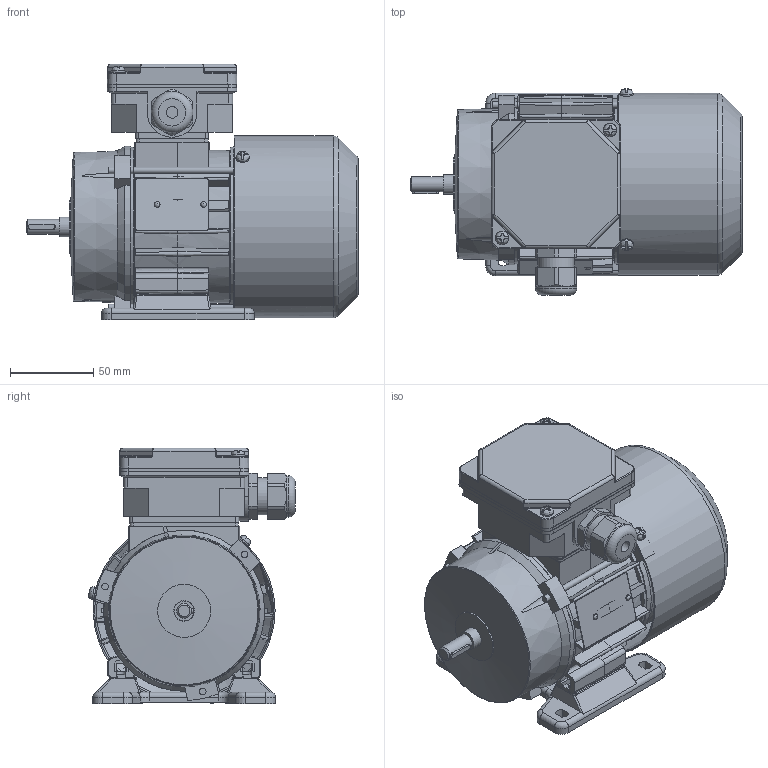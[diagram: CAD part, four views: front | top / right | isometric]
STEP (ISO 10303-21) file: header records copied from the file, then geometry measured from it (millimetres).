
FILE_DESCRIPTION( ( 'Unknown' ), '1' );
FILE_NAME( 'G:/Poczta Tk-1/STP/w.m.56/Sh56/Sh56-C.stp', 'Unknown', ( 'K. Szlosek' ), ( 'BESEL S.A.' ), 'PSStep 17.0.49', 'Unknown', ' ' );
FILE_SCHEMA( ( 'AUTOMOTIVE_DESIGN { 1 0 10303 214 1 1 1 1 }' ) );
Length unit declared in the file: millimetre
Products named in the file (29): Assem1; K4-2320 Uszczelka nr 1 Sh71,80; K3-2193 Tarcza łożyskowa P Sg56-2..; K2-0860 Pokrywka skrzynki zaciskowej; Wpust A3x3x16; K3-2977 Osłona przewietrznika Sg56; K4-2820 Uszczelka nr 2 Sh71,80; Wkręt samogwintujący M4x8; Wkręt samogwintujący M4x16; K2-0879 Przewietrznik Sg56; Nitokołek A 2x6; K3-2200 Tarcza łożyskowa N Sg56-...; K1-0484 Łapa Sg56-.. w. robocza; K3-9987 kadłub ze stojanem Sh56-C; K3-9990 wał Sh56-C; K2-0859 Podstawa skrzynki 6-cio zaciskowej; Dławnica M20x1,5; Łożysko 6201; Tabliczka znamionowa 32x44; Śruba ściągająca E_M4x85
Assembly tree (44 placements, depth 2):
  Assem1
    K4-2320 Uszczelka nr 1 Sh71,80
    K3-2193 Tarcza łożyskowa P Sg56-2..
    K2-0860 Pokrywka skrzynki zaciskowej
    Wpust A3x3x16
    K3-2977 Osłona przewietrznika Sg56
    K4-2820 Uszczelka nr 2 Sh71,80
    Wkręt samogwintujący M4x8  x3
    Wkręt samogwintujący M4x16  x2
    K2-0879 Przewietrznik Sg56
    Nitokołek A 2x6  x2
    K3-2200 Tarcza łożyskowa N Sg56-...
    K1-0484 Łapa Sg56-.. w. robocza
    K3-9987 kadłub ze stojanem Sh56-C
    K3-9990 wał Sh56-C
    K2-0859 Podstawa skrzynki 6-cio zaciskowej
    Dławnica M20x1,5
    Łożysko 6201  x2
    Łożysko 6201  x2
    Łożysko 6201  x2
    Łożysko 6201  x2
    Łożysko 6201  x2
    Łożysko 6201  x2
    Łożysko 6201  x2
    Łożysko 6201  x2
    Łożysko 6201  x2
    Łożysko 6201  x2
    Tabliczka znamionowa 32x44
    Śruba ściągająca E_M4x85  x3
Bounding box: 200 x 124.54 x 154 mm (x, y, z)
Volume: 429916.9 mm3; surface area: 313811.2 mm2
Topology: 44 solids, 60 shells, 1868 faces, 5071 edges, 3277 vertices
Faces by surface type: plane 983, cylinder 528, torus 135, cone 120, bspline 68, sphere 34
Full cylindrical faces by diameter (mm): 2 x2, 2.4 x2, 3.3 x3, 3.7 x10, 4 x8, 4.5 x4, 4.8 x4, 5 x4, 5.8 x4, 7 x4, 8 x6, 9 x1, 10.9 x1, 11 x1, 11.5 x1, 11.8 x2, 12 x4, 12.4 x2, 15.5 x1, 16 x1, 16.1 x1, 17 x2, 18 x1, 18.376 x1, 18.38 x1, 18.52 x4, 20 x1, 22.3 x1, 24 x2, 25 x1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
Entity records: 76934 total; most frequent: CARTESIAN_POINT 20368, ORIENTED_EDGE 8810, DIRECTION 8750, EDGE_CURVE 4405, AXIS2_PLACEMENT_3D 3242, VERTEX_POINT 2971, LINE 2266, VECTOR 2266
